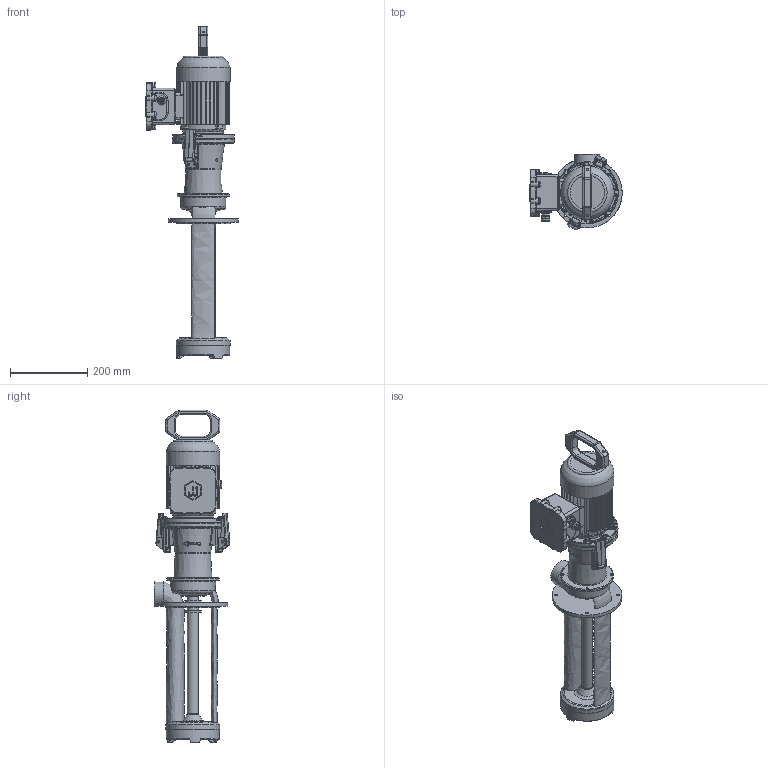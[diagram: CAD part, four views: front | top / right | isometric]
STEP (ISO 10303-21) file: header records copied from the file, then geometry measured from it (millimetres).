
FILE_DESCRIPTION(/* description */ ('Unknown'),/* implementation_level */ '2;1');
FILE_NAME(/* name */ 'EP EX 150-350',/* time_stamp */ '2025-05-30T16:24:01+03:00',/* author */ ('Unknown'),/* organization */ ('Unknown'),/* preprocessor_version */ 'ST-DEVELOPER v16.7',/* originating_system */ 'DEX',/* authorisation */ $);
FILE_SCHEMA (('AUTOMOTIVE_DESIGN {1 0 10303 214 3 1 1}'));
Length unit declared in the file: millimetre
Products named in the file (1): EP EX 150-350
Bounding box: 238.5 x 195.43 x 857.21 mm (x, y, z)
Volume: 6977365.3 mm3; surface area: 724579.4 mm2
Topology: 2 solids, 10 shells, 2376 faces, 6461 edges, 4009 vertices
Faces by surface type: cylinder 897, plane 741, bspline 368, torus 201, cone 90, sphere 79
Full cylindrical faces by diameter (mm): 3 x12, 3.242 x12, 4 x14, 4.134 x24, 4.9 x4, 5 x86, 5.3 x4, 5.5 x2, 5.7 x8, 6 x8, 7 x8, 8 x3, 9.5 x8, 10 x8, 12 x1, 13 x2, 13.962 x1, 16 x1, 18.376 x5, 20 x1, 21.8 x2, 28 x1, 29 x3, 30 x1, 42 x2, 44 x1, 48 x1, 62 x1, 94 x1, 102 x1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
Entity records: 113401 total; most frequent: CARTESIAN_POINT 43043, ORIENTED_EDGE 11576, DIRECTION 10828, EDGE_CURVE 5788, AXIS2_PLACEMENT_3D 4274, VERTEX_POINT 3794, FACE_BOUND 2816, EDGE_LOOP 2808
